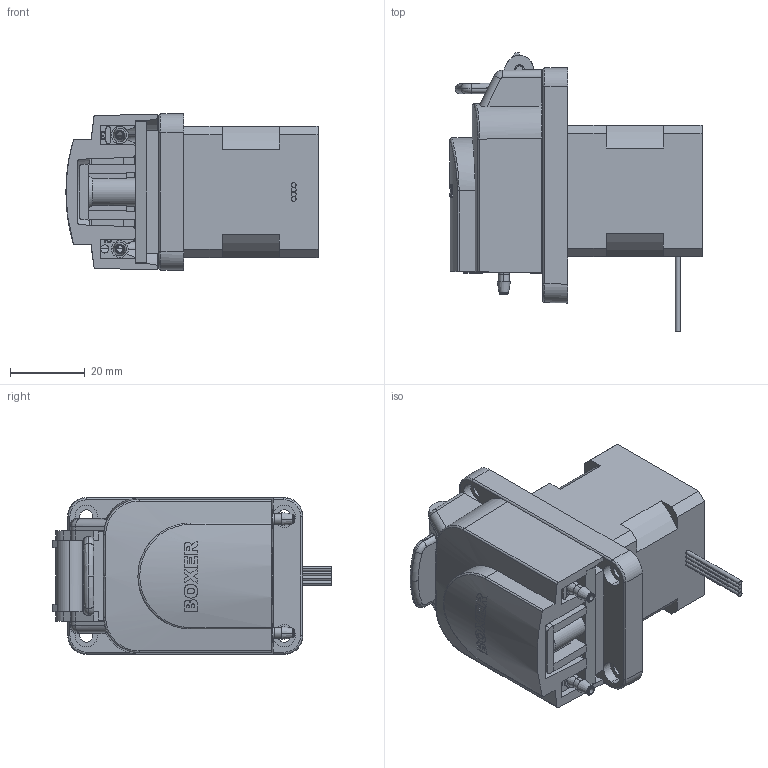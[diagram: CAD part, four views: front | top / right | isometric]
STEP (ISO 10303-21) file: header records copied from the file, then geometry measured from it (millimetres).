
FILE_DESCRIPTION (( 'STEP AP203' ), '1' );
FILE_NAME ('9QQ Stepper Part.STEP', '2017-08-22T06:37:44', ( '' ), ( '' ), 'SwSTEP 2.0', 'SolidWorks 2015', '' );
FILE_SCHEMA (( 'CONFIG_CONTROL_DESIGN' ));
Length unit declared in the file: millimetre
Products named in the file (1): 9QQ Stepper Part
Bounding box: 67.5 x 74.6 x 42 mm (x, y, z)
Surface area: 26019.2 mm2 (no closed solid volume)
Topology: 0 solids, 16 shells, 474 faces, 1802 edges, 1305 vertices
Faces by surface type: plane 193, cylinder 154, bspline 55, cone 47, torus 23, sphere 2
Entity records: 22103 total; most frequent: CARTESIAN_POINT 7662, DIRECTION 2864, ORIENTED_EDGE 2794, EDGE_CURVE 1802, VERTEX_POINT 1305, AXIS2_PLACEMENT_3D 1000, VECTOR 864, LINE 864
